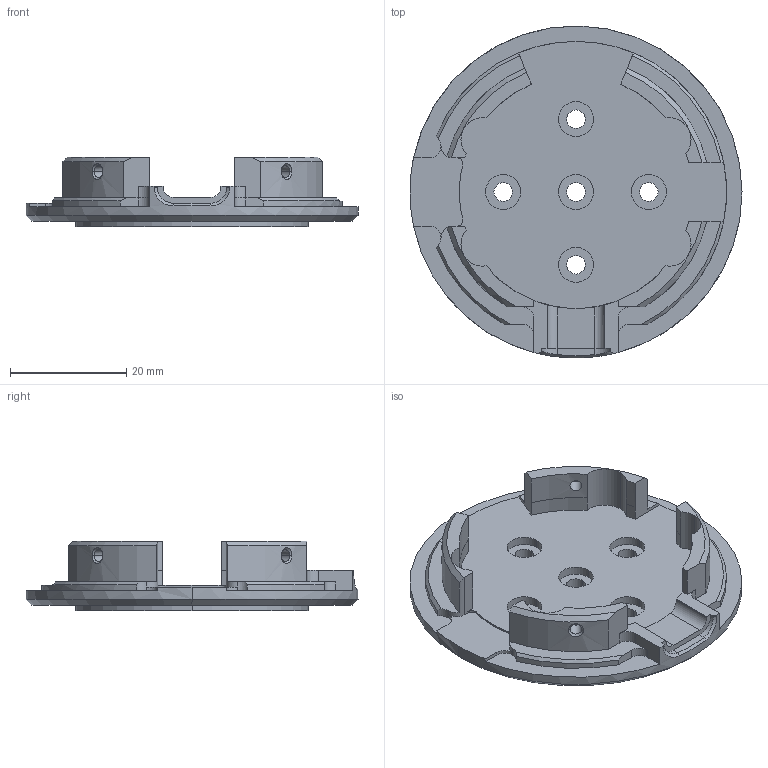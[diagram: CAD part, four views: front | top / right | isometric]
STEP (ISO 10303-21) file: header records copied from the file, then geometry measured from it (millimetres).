
FILE_DESCRIPTION (( 'STEP AP214' ), '1' );
FILE_NAME ('230000166201_綴傷裔儂樓.STEP', '2025-10-31T13:13:21', ( '' ), ( '' ), 'SwSTEP 2.0', 'SolidWorks 2022', '' );
FILE_SCHEMA (( 'AUTOMOTIVE_DESIGN' ));
Length unit declared in the file: millimetre
Products named in the file (1): 230000166201_后端盖机加
Bounding box: 57 x 57 x 12 mm (x, y, z)
Volume: 10803 mm3; surface area: 7460.4 mm2
Topology: 1 solids, 1 shells, 153 faces, 413 edges, 268 vertices
Faces by surface type: cylinder 84, plane 47, cone 19, bspline 3
Entity records: 5797 total; most frequent: CARTESIAN_POINT 1703, ORIENTED_EDGE 826, DIRECTION 819, EDGE_CURVE 413, AXIS2_PLACEMENT_3D 314, VERTEX_POINT 268, VECTOR 191, LINE 191
